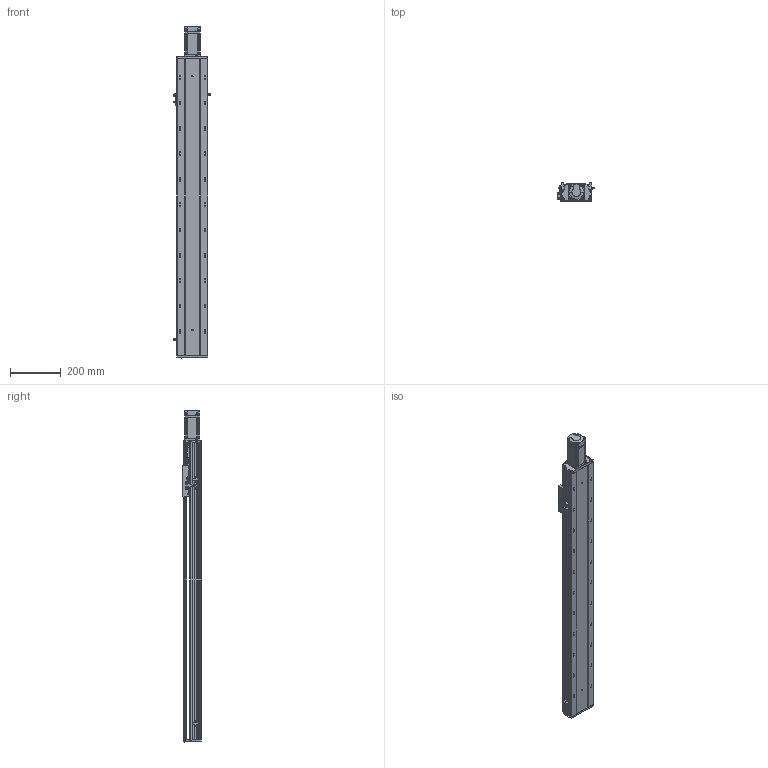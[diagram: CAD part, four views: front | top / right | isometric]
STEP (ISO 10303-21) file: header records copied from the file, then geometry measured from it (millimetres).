
FILE_DESCRIPTION (( 'STEP AP203' ), '1' );
FILE_NAME ('RYK120-L1610-S900-M40-C3-MK.STEP', '2026-03-09T06:56:19', ( '' ), ( '' ), 'SwSTEP 2.0', 'SolidWorks 2016', '' );
FILE_SCHEMA (( 'CONFIG_CONTROL_DESIGN' ));
Length unit declared in the file: millimetre
Products named in the file (17): CB╱T 3762-1996[锥形润滑油嘴1-ZM10×1]_1-ZM10×1; RYK120-L1610-S900-M40-C3-MK; RY120外置感应片(140共用）; 44-49-12-14; 滅袉蝶18-24; 侂狟400W侜督萇儂; RYK120-300-MK-菁釱-啞_900; 2.10.1.C521-V1.0RY120臏賑輸16蹟譫-啞-JZZY-NRL-L1899; RYK170-薊粣ん芵隴裔啣; RY120-16螺母油路-集中注油组合; RY120綴裔啣; RY120电机端支撑座-压铸加工-M5; 覜茼ん672; 滅袉蝶18-10; RYK120-300-MK-奻裔啣-啞_900; RY120QGB-1.8; 15
Assembly tree (21 placements, depth 3):
  RYK120-L1610-S900-M40-C3-MK
    RYK120-300-MK-菁釱-啞_900
    RYK120-300-MK-奻裔啣-啞_900
    RY120綴裔啣
    滅袉蝶18-24  x2
    滅袉蝶18-10  x2
    覜茼ん672  x3
    RY120外置感应片(140共用）
    RY120QGB-1.8
    RY120-16螺母油路-集中注油组合
      2.10.1.C521-V1.0RY120臏賑輸16蹟譫-啞-JZZY-NRL-L1899
      CB╱T 3762-1996[锥形润滑油嘴1-ZM10×1]_1-ZM10×1  x2
    RY120电机端支撑座-压铸加工-M5
    RYK170-薊粣ん芵隴裔啣
    44-49-12-14
    侂狟400W侜督萇儂
      15
Bounding box: 145.7 x 73 x 1308.5 mm (x, y, z)
Volume: 3475064.5 mm3; surface area: 1228785.1 mm2
Topology: 23 solids, 23 shells, 2786 faces, 7790 edges, 4987 vertices
Faces by surface type: plane 1241, cylinder 1135, cone 283, bspline 127
Entity records: 94530 total; most frequent: CARTESIAN_POINT 28116, ORIENTED_EDGE 14064, DIRECTION 12723, EDGE_CURVE 7032, VERTEX_POINT 4599, AXIS2_PLACEMENT_3D 4398, VECTOR 3927, LINE 3927
